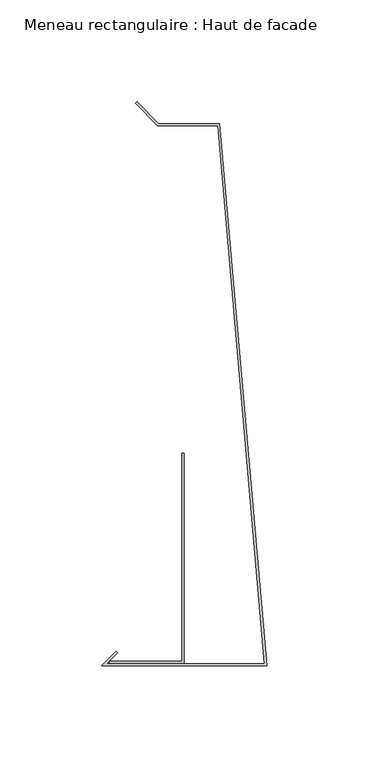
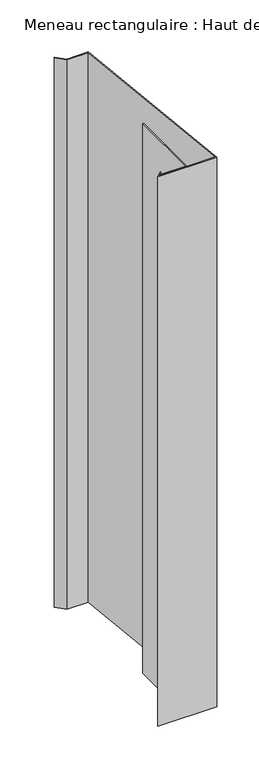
"""IFC4 building model written with IfcOpenShell, lengths in millimetres: member geometry, Meneau rectangulaire : Haut de facade."""

from ifc_helpers import new_model, si_unit, frame, origin, place, context, project, spatial, polyline, outline, extrude, source, transform, mapped, element, save


def meneau_rectangulaire_haut_de_facade_6f5ed1bf(model_context):
    return source(origin(), model_context, "Body", "SweptSolid", [
        extrude(outline(polyline([(-24.0647895, 160.703755), (-53.5626719, 160.703755), (-64.4621669, 171.6032499), (-63.7550601, 172.3103567), (-53.1484584, 161.703755), (-23.1484584, 161.703755), (0.0, -104.2), (-81.0, -104.2), (-73.9289322, -97.1289322), (-73.2218254, -97.836039), (-78.5857864, -103.2), (-1.0913085, -103.2), (-24.0647895, 160.703755)])), frame((0.0, 0.0, -800.0), z_axis=(0.0, 0.0, 1.0), x_axis=(1.0, 0.0, 0.0)), (0.0, 0.0, 1.0), 800.0),
        extrude(outline(polyline([(-40.5477541, -102.9846816), (-77.0752814, -102.9846816), (-77.0752814, -101.9846816), (-41.5477541, -101.9846816), (-41.5477541, -0.0384227), (-40.5477541, -0.0384227), (-40.5477541, -102.9846816)])), frame((0.0, 0.0, -800.0), z_axis=(0.0, 0.0, 1.0), x_axis=(1.0, 0.0, 0.0)), (0.0, 0.0, 1.0), 800.0),
    ])


if __name__ == "__main__":
    model = new_model("IFC4")
    model_context = context("Model", 3, world=origin())
    ifc_project = project(units=[si_unit("LENGTHUNIT", "METRE", prefix="MILLI")], contexts=[model_context])
    site = spatial("IfcSite", under=ifc_project)
    building = spatial("IfcBuilding", under=site)
    placement = place(None, origin())
    meneau_rectangulaire_haut_de_facade_shape = meneau_rectangulaire_haut_de_facade_6f5ed1bf(model_context)
    element("IfcMember", 1, ObjectType="Meneau rectangulaire : Haut de facade", at=placement, inside=building, context=model_context, shape_type="MappedRepresentation", body=[
        mapped(meneau_rectangulaire_haut_de_facade_shape, transform((0.0, 0.0, 0.0), x_axis=(1.0, 0.0, 0.0), y_axis=(0.0, 1.0, 0.0), z_axis=(0.0, 0.0, 1.0))),
    ])
    save(model, "model.ifc")
